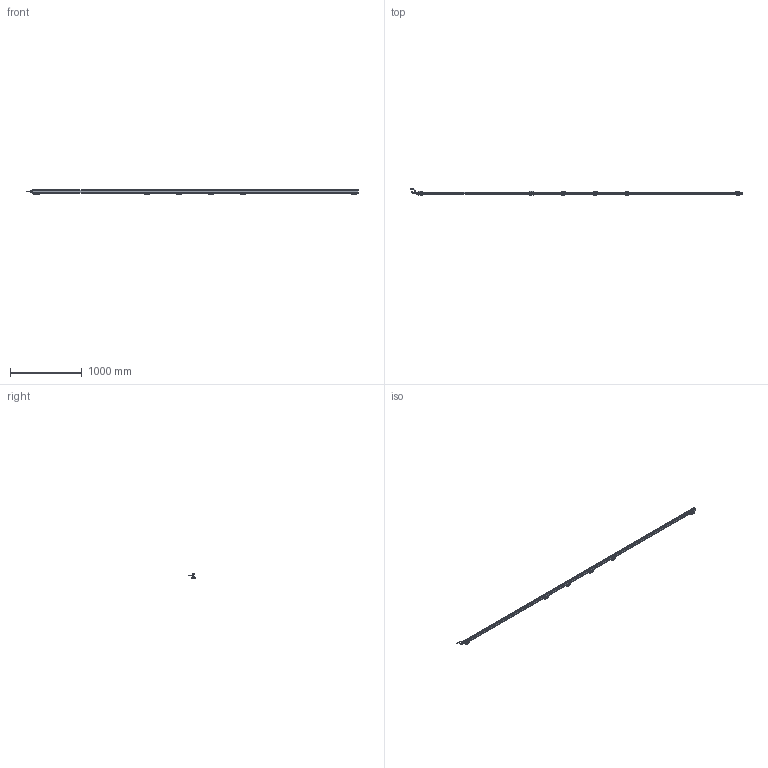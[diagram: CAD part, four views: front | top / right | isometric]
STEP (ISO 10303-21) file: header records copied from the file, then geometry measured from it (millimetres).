
FILE_DESCRIPTION(('Bauteilbeschreibung','HiCAD-Model','HiCAD-STEP-TRANSLATION','Bauteilbeschreibung'),'2;1');
FILE_NAME('PERFORMAXIQEASY_4470-4560_3D.STP','2014-03-05T13:43:35+00:00',('Konstrukteur'),('Konstrukteur Firma GmbH'),' HiCAD 2011, Step 1600.0 ','HiCAD 2011','confidential');
FILE_SCHEMA(('AUTOMOTIVE_DESIGN { 1 2 10303 214 0 1 1 1 }'));
Products named in the file (56): PERFORMAXIQEASY_4470_4560_3D; A_PERFORMAX IQ EASY 4470_4560; A_PERFORMAX IQ EASY SPEED; A_CAP DE; A_CAP CE_5; LED_2C_3MM; LED02C03MM; A519020315_CONNECTOR APPLIANCE; A_INSERT; A_CONTACTS; A_HOUSING; A_PROFILE; A_POTTING; PIN; PIN0; A532000100_BRACKET BARS_ MOUNT; A_SIDE PIECE; A0SIDE0PIECE; A_BRACKET SMALL; A_SLIDE PIECE; A5320001000BRACKET0BARS00MOUNT; A0SIDE0PIECE0; A0SIDE0PIECE1; A0BRACKET0SMALL; A0SLIDE0PIECE; A5320001000BRACKET0BARS00MOUNT0; A0SIDE0PIECE2; A0SIDE0PIECE3; A0BRACKET0SMALL0; A0SLIDE0PIECE0; A0SIDE0PIECE4; A0SIDE0PIECE5; A0BRACKET0SMALL1; A0SLIDE0PIECE1; A0SIDE0PIECE6; A0SIDE0PIECE7; A0BRACKET0SMALL2; A0SLIDE0PIECE2; A0SIDE0PIECE8; A0SIDE0PIECE9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
Assembly tree (55 placements, depth 5):
  PERFORMAXIQEASY_4470_4560_3D
    A_PERFORMAX IQ EASY 4470_4560
      A_PERFORMAX IQ EASY SPEED
        A_CAP DE
        A_CAP CE_5
        LED_2C_3MM
        LED02C03MM
        A519020315_CONNECTOR APPLIANCE
          A_INSERT
          A_CONTACTS
          A_HOUSING
        A_PROFILE
        A_POTTING
        PIN
        PIN0
      A532000100_BRACKET BARS_ MOUNT
        A_SIDE PIECE
        A0SIDE0PIECE
        A_BRACKET SMALL
        A_SLIDE PIECE
      A5320001000BRACKET0BARS00MOUNT
        A0SIDE0PIECE0
        A0SIDE0PIECE1
        A0BRACKET0SMALL
        A0SLIDE0PIECE
      A5320001000BRACKET0BARS00MOUNT0
        A0SIDE0PIECE2
        A0SIDE0PIECE3
        A0BRACKET0SMALL0
        A0SLIDE0PIECE0
      A5320001000BRACKET0BARS00MOUNT0
        A0SIDE0PIECE4
        A0SIDE0PIECE5
        A0BRACKET0SMALL1
        A0SLIDE0PIECE1
      A5320001000BRACKET0BARS00MOUNT0
        A0SIDE0PIECE6
        A0SIDE0PIECE7
        A0BRACKET0SMALL2
        A0SLIDE0PIECE2
      A5320001000BRACKET0BARS00MOUNT0
        A0SIDE0PIECE8
        A0SIDE0PIECE9
        A0BRACKET0SMALL3
        A0SLIDE0PIECE3
      A_CONNECTOR STRAIGHT
        EXTRUDED SOLID_0
        DRAAD GEBOGEN
        REVOLVED SOLID_1
        REVOLVED SOLID_3
      A_CONNECTOR ANGLED
        REVOLVED0SOLID01
        EXTRUDED0SOLID00
        C_EDGE SWEEP_0
        REVOLVED SOLID_2
        REVOLVED0SOLID03
Bounding box: 4637.89 x 84.24 x 63.13 mm (x, y, z)
Volume: 4675754.3 mm3; surface area: 1117509.6 mm2
Topology: 49 solids, 49 shells, 4983 faces, 12800 edges, 7585 vertices
Faces by surface type: cylinder 2137, plane 1879, sphere 332, torus 299, bspline 248, cone 88
Full cylindrical faces by diameter (mm): 0.8 x10, 1 x5, 2.387 x12, 3 x27, 3.1 x1, 4.2 x2, 5 x4, 5.5 x30, 8 x2, 8.2 x1, 8.4 x2, 8.945 x1, 9 x2, 10.2 x1, 10.5 x3, 11 x1, 12 x3, 12.8 x1, 13.8 x4, 14.5 x3
Entity records: 231105 total; most frequent: CARTESIAN_POINT 54548, DIRECTION 24777, ORIENTED_EDGE 24320, EDGE_CURVE 12160, COLOUR_RGB 11541, PRESENTATION_STYLE_ASSIGNMENT 11541, OVER_RIDING_STYLED_ITEM 11497, CURVE_STYLE 11492
